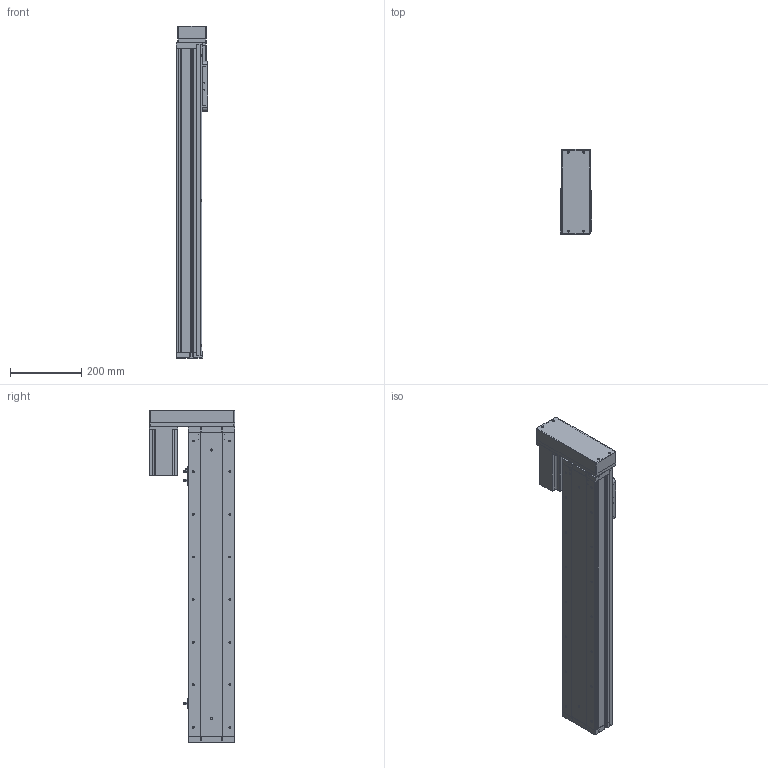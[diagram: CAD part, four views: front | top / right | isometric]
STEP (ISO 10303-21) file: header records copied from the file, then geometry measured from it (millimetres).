
FILE_DESCRIPTION (( 'STEP AP214' ), '1' );
FILE_NAME ('KSD130S-P2010-ML-CR-S650.STEP', '2019-09-24T06:19:27', ( '微软用户' ), ( '微软中国' ), 'SwSTEP 2.0', 'SolidWorks 2014', '' );
FILE_SCHEMA (( 'AUTOMOTIVE_DESIGN' ));
Length unit declared in the file: millimetre
Products named in the file (14): 130宽盖板全封闭-650行程; 130宽滚珠螺姆安装板1防护罩; 130宽滚珠螺姆安装板1; 130宽侧板全封闭-650行程; 130宽全封闭马达安装板丝杠; 130宽全封闭端盖丝杠; 130宽底板全封闭丝杠-650行程; KSD130S-P2010-ML-CR-S650; 台达ECMA－C20807AS伺服电机; 130宽模组马达安装板连板左右折丝杆; 感应片130宽全封闭; U倰嫖萇EEㄜSX672; 130宽模组保护罩左右折; 130遵裔啣揤啣1
Assembly tree (17 placements, depth 2):
  KSD130S-P2010-ML-CR-S650
    130宽底板全封闭丝杠-650行程
    130宽全封闭端盖丝杠
    130宽全封闭马达安装板丝杠
    130宽侧板全封闭-650行程  x2
    130宽滚珠螺姆安装板1
    130宽滚珠螺姆安装板1防护罩
    130宽盖板全封闭-650行程
    130遵裔啣揤啣1  x2
    U倰嫖萇EEㄜSX672  x3
    感应片130宽全封闭
    130宽模组马达安装板连板左右折丝杆
    台达ECMA－C20807AS伺服电机
    130宽模组保护罩左右折
Bounding box: 90 x 240 x 934.5 mm (x, y, z)
Volume: 3665654.5 mm3; surface area: 1151801.5 mm2
Topology: 18 solids, 18 shells, 1478 faces, 4024 edges, 2533 vertices
Faces by surface type: cylinder 652, plane 611, cone 215
Entity records: 44922 total; most frequent: DIRECTION 6839, CARTESIAN_POINT 6729, ORIENTED_EDGE 6326, EDGE_CURVE 3163, AXIS2_PLACEMENT_3D 2459, VERTEX_POINT 2063, LINE 1921, VECTOR 1921
